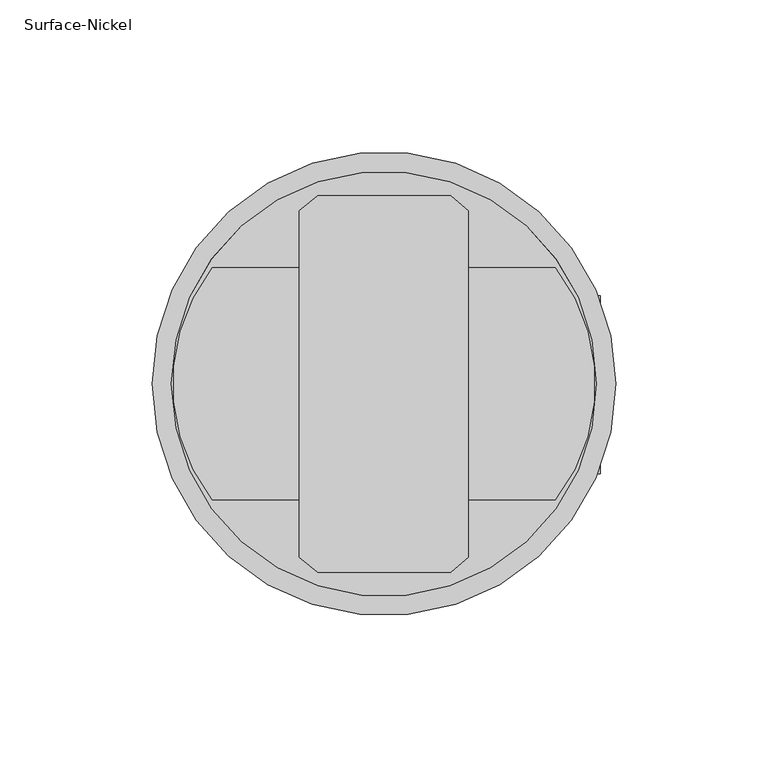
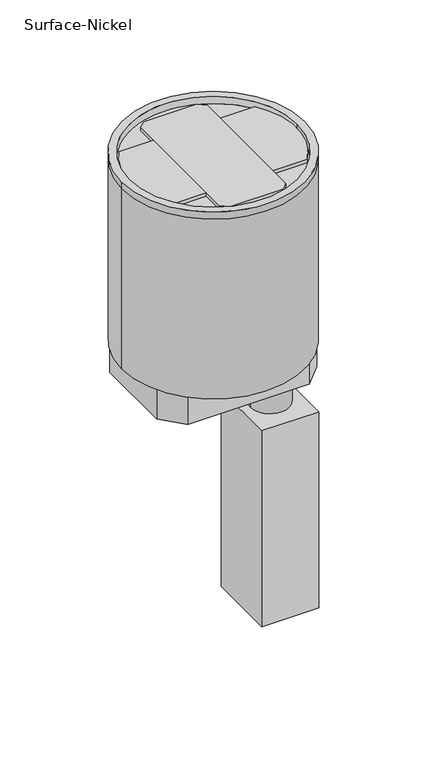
"""IFC4 building model written with IfcOpenShell, lengths in millimetres: proxy geometry, Poke_Thru-Evolution_6AT_Series-Wiremold-Prewired_Audio_Video : Surface-Nickel."""

from ifc_helpers import new_model, si_unit, point, frame, frame_2d, origin, origin_with_axes, place, context, project, spatial, polyline, circle_curve, trimmed, segment, composite_curve, outline, extrude, source, transform, mapped, element, save
from ifc_brep_helpers import plane_surface, cylinder_surface, revolved_surface, advanced_brep


def surface_nickel_aae4faf7(model_context):
    return source(origin(), model_context, "Body", "SolidModel", [
        extrude(outline(polyline([(-21.8163935, 61.9125), (22.0523137, 61.9125), (27.78125, 56.9197167), (27.78125, -56.9197167), (22.0523137, -61.9125), (-21.8163935, -61.9125), (-27.78125, -56.9197167), (-27.78125, 56.9197167), (-21.8163935, 61.9125)])), frame((0.0, 0.0, -6.35), z_axis=(0.0, 0.0, 1.0), x_axis=(1.0, 0.0, 0.0)), (0.0, 0.0, 1.0), 3.175),
        extrude(outline(composite_curve([segment(polyline([(56.4048196, -38.1), (27.8003, -38.1), (27.8003, 38.1), (56.4048196, 38.1)]), True, "CONTINUOUS"), segment(trimmed(circle_curve(frame_2d((7.1886716, 0.0)), 62.2401737), [point((56.4048196, 38.1))], [point((56.4048196, -38.1))], False, "CARTESIAN"), True, "CONTINUOUS")], self_intersect=False)), frame((0.0, 0.0, -6.35), z_axis=(0.0, 0.0, 1.0), x_axis=(1.0, 0.0, 0.0)), (0.0, 0.0, 1.0), 3.175),
        extrude(outline(composite_curve([segment(polyline([(-56.4048196, 38.1), (-27.8003, 38.1), (-27.8003, -38.1), (-56.4048196, -38.1)]), True, "CONTINUOUS"), segment(trimmed(circle_curve(frame_2d((-7.1886716, 0.0)), 62.2401737), [point((-56.4048196, -38.1))], [point((-56.4048196, 38.1))], False, "CARTESIAN"), True, "CONTINUOUS")], self_intersect=False)), frame((0.0, 0.0, -6.35), z_axis=(0.0, 0.0, 1.0), x_axis=(1.0, 0.0, 0.0)), (0.0, 0.0, 1.0), 3.175),
        advanced_brep(
        [(69.85, 0.0, -6.35), (-69.85, 0.0, -6.35), (-76.2, 0.0, -165.1), (76.2, 0.0, -165.1), (76.2, 0.0, -6.35), (-76.2, 0.0, -6.35), (-76.2, 0.0, 0.0), (76.2, 0.0, 0.0), (-69.85, 0.0, 0.0), (69.85, 0.0, 0.0)],
        [
            (0, 1, circle_curve(frame((0.0, 0.0, -6.35), z_axis=(0.0, 0.0, 1.0), x_axis=(1.0, 0.0, 0.0)), 69.85)),
            (1, 0, circle_curve(frame((0.0, 0.0, -6.35), z_axis=(0.0, 0.0, 1.0), x_axis=(1.0, 0.0, 0.0)), 69.85)),
            (2, 3, circle_curve(frame((0.0, 0.0, -165.1), z_axis=(0.0, 0.0, -1.0), x_axis=(1.0, 0.0, 0.0)), 76.2)),
            (3, 2, circle_curve(frame((0.0, 0.0, -165.1), z_axis=(0.0, 0.0, -1.0), x_axis=(1.0, 0.0, 0.0)), 76.2)),
            (3, 4),
            (4, 5, circle_curve(frame((0.0, 0.0, -6.35), z_axis=(0.0, 0.0, -1.0), x_axis=(1.0, 0.0, 0.0)), 76.2)),
            (5, 2),
            (5, 4, circle_curve(frame((0.0, 0.0, -6.35), z_axis=(0.0, 0.0, -1.0), x_axis=(1.0, 0.0, 0.0)), 76.2)),
            (6, 7, circle_curve(origin_with_axes(), 76.2)),
            (7, 6, circle_curve(origin_with_axes(), 76.2)),
            (8, 9, circle_curve(frame((0.0, 0.0, 0.0), z_axis=(0.0, 0.0, -1.0), x_axis=(1.0, 0.0, 0.0)), 69.85)),
            (9, 8, circle_curve(frame((0.0, 0.0, 0.0), z_axis=(0.0, 0.0, -1.0), x_axis=(1.0, 0.0, 0.0)), 69.85)),
            (6, 5),
            (4, 7),
            (8, 1),
            (0, 9),
        ],
        [
            plane_surface(frame((76.2, 0.0, -6.35), z_axis=(0.0, 0.0, 1.0), x_axis=(0.0, 1.0, 0.0))),
            plane_surface(frame((76.2, 0.0, -165.1), z_axis=(0.0, 0.0, -1.0), x_axis=(0.0, -1.0, 0.0))),
            cylinder_surface(frame((0.0, 0.0, -165.1), z_axis=(0.0, 0.0, 1.0), x_axis=(1.0, 0.0, 0.0)), 76.2),
            plane_surface(frame((76.2, 0.0, 0.0), z_axis=(0.0, 0.0, 1.0), x_axis=(0.0, 1.0, 0.0))),
            cylinder_surface(frame((0.0, 0.0, -6.35), z_axis=(0.0, 0.0, 1.0), x_axis=(1.0, 0.0, 0.0)), 76.2),
            revolved_surface(polyline([(69.85, 0.0, -6.35), (69.85, 0.0, 0.0)]), (0.0, 0.0, 0.0), (0.0, 0.0, -1.0)),
        ],
        [
            (0, [[1, 2]]),
            (1, [[3, 4]]),
            (2, [[-4, 5, 6, 7]]),
            (2, [[-3, -7, 8, -5]]),
            (3, [[9, 10], [11, 12]]),
            (4, [[-9, 13, -6, 14]]),
            (4, [[-10, -14, -8, -13]]),
            (5, [[-11, 15, -1, 16]]),
            (5, [[-12, -16, -2, -15]]),
        ],
    ),
        extrude(outline(polyline([(50.8, 50.8), (66.675, 34.036), (66.675, -34.036), (50.8, -50.8), (-50.8, -50.8), (-66.675, -34.036), (-66.675, 34.036), (-50.8, 50.8), (50.8, 50.8)])), frame((0.0, 0.0, -192.1002), z_axis=(0.0, 0.0, 1.0), x_axis=(1.0, 0.0, 0.0)), (0.0, 0.0, 1.0), 27.0002),
        extrude(outline(composite_curve([segment(trimmed(circle_curve(frame_2d((47.244, 0.0)), 11.1252), [point((36.1188, 0.0))], [point((58.3692, 0.0))], False, "CARTESIAN"), True, "CONTINUOUS"), segment(trimmed(circle_curve(frame_2d((47.244, 0.0)), 11.1252), [point((58.3692, 0.0))], [point((36.1188, 0.0))], False, "CARTESIAN"), True, "CONTINUOUS")], self_intersect=False)), frame((0.0, 0.0, -217.5002), z_axis=(0.0, 0.0, 1.0), x_axis=(1.0, 0.0, 0.0)), (0.0, 0.0, 1.0), 25.4),
        extrude(outline(composite_curve([segment(trimmed(circle_curve(frame_2d((47.244, 0.0)), 16.0528), [point((31.1912, 0.0))], [point((63.2968, 0.0))], False, "CARTESIAN"), True, "CONTINUOUS"), segment(trimmed(circle_curve(frame_2d((47.244, 0.0)), 16.0528), [point((63.2968, 0.0))], [point((31.1912, 0.0))], False, "CARTESIAN"), True, "CONTINUOUS")], self_intersect=False)), frame((0.0, 0.0, -236.5502), z_axis=(0.0, 0.0, 1.0), x_axis=(1.0, 0.0, 0.0)), (0.0, 0.0, 1.0), 19.05),
        extrude(outline(polyline([(71.0438, 28.980332), (71.0438, -29.439668), (23.4442, -29.439668), (23.4442, 28.980332), (71.0438, 28.980332)])), frame((0.0, 0.0, -409.575), z_axis=(0.0, 0.0, 1.0), x_axis=(1.0, 0.0, 0.0)), (0.0, 0.0, 1.0), 173.0248),
    ])


if __name__ == "__main__":
    model = new_model("IFC4")
    model_context = context("Model", 3, world=origin())
    ifc_project = project(units=[si_unit("LENGTHUNIT", "METRE", prefix="MILLI")], contexts=[model_context])
    site = spatial("IfcSite", under=ifc_project)
    building = spatial("IfcBuilding", under=site)
    placement = place(None, origin())
    surface_nickel_shape = surface_nickel_aae4faf7(model_context)
    element("IfcBuildingElementProxy", 1, Name="Poke_Thru-Evolution_6AT_Series-Wiremold-Prewired_Audio_Video : Surface-Nickel", ObjectType="Poke_Thru-Evolution_6AT_Series-Wiremold-Prewired_Audio_Video : Surface-Nickel", at=placement, inside=building, context=model_context, shape_type="MappedRepresentation", body=[
        mapped(surface_nickel_shape, transform((0.0, 0.0, 0.0), x_axis=(1.0, 0.0, 0.0), y_axis=(0.0, 1.0, 0.0), z_axis=(0.0, 0.0, 1.0))),
    ])
    save(model, "model.ifc")
